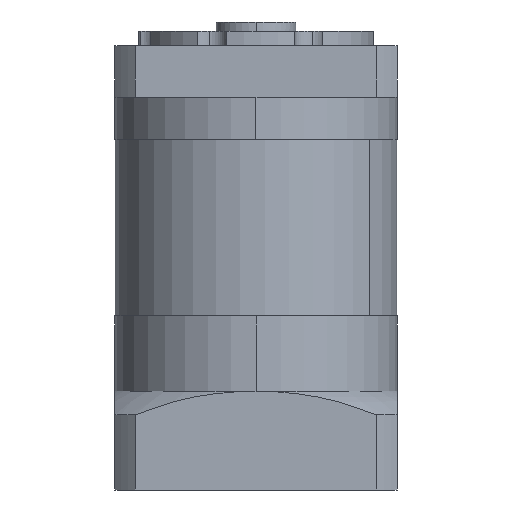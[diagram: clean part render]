
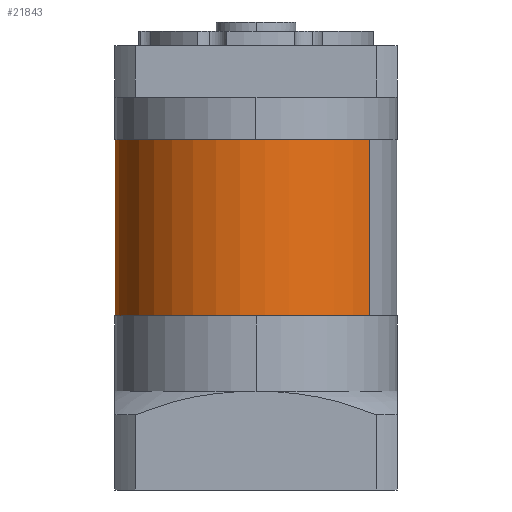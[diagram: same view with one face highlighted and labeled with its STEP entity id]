
A CAD part, left-side view. The second image highlights one B-rep face of the part: STEP entity #21843.
In plain terms, the highlighted cylindrical face has radius 30 mm (diameter 60 mm), a partial arc.
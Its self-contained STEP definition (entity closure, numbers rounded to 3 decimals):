
#599 = CARTESIAN_POINT ( 'NONE',  ( 0., -30., 18.75 ) ) ;
#1205 = DIRECTION ( 'NONE',  ( 0., 0., -1. ) ) ;
#1241 = CARTESIAN_POINT ( 'NONE',  ( 0., 30., 18.75 ) ) ;
#1908 = LINE ( 'NONE', #40307, #9716 ) ;
#2943 = CARTESIAN_POINT ( 'NONE',  ( 0., 30., -18.75 ) ) ;
#3384 = CARTESIAN_POINT ( 'NONE',  ( 0., 30., 18.75 ) ) ;
#3397 = ORIENTED_EDGE ( 'NONE', *, *, #37123, .F. ) ;
#4415 = ORIENTED_EDGE ( 'NONE', *, *, #4863, .T. ) ;
#4487 = CARTESIAN_POINT ( 'NONE',  ( 0., -30., -18.75 ) ) ;
#4863 = EDGE_CURVE ( 'NONE', #21044, #7023, #36977, .T. ) ;
#5177 = DIRECTION ( 'NONE',  ( 0., 0., -1. ) ) ;
#5363 = CIRCLE ( 'NONE', #7870, 30. ) ;
#5520 = ORIENTED_EDGE ( 'NONE', *, *, #36772, .T. ) ;
#5795 = DIRECTION ( 'NONE',  ( 0., 0., 1. ) ) ;
#7023 = VERTEX_POINT ( 'NONE', #2943 ) ;
#7870 = AXIS2_PLACEMENT_3D ( 'NONE', #25542, #5795, #28835 ) ;
#9716 = VECTOR ( 'NONE', #17455, 1000. ) ;
#11255 = VERTEX_POINT ( 'NONE', #4487 ) ;
#12662 = EDGE_CURVE ( 'NONE', #7023, #11255, #5363, .T. ) ;
#12930 = VECTOR ( 'NONE', #1205, 1000. ) ;
#15126 = CARTESIAN_POINT ( 'NONE',  ( 0., 0., 18.75 ) ) ;
#17455 = DIRECTION ( 'NONE',  ( 0., 0., -1. ) ) ;
#18944 = EDGE_LOOP ( 'NONE', ( #3397, #5520, #4415, #35150 ) ) ;
#21044 = VERTEX_POINT ( 'NONE', #3384 ) ;
#21843 = ADVANCED_FACE ( 'NONE', ( #26811 ), #34502, .T. ) ;
#24850 = DIRECTION ( 'NONE',  ( 0., 1., 0. ) ) ;
#24958 = CARTESIAN_POINT ( 'NONE',  ( 0., 0., 18.75 ) ) ;
#25542 = CARTESIAN_POINT ( 'NONE',  ( 0., 0., -18.75 ) ) ;
#26109 = VERTEX_POINT ( 'NONE', #599 ) ;
#26811 = FACE_OUTER_BOUND ( 'NONE', #18944, .T. ) ;
#28237 = DIRECTION ( 'NONE',  ( 0., 1., 0. ) ) ;
#28835 = DIRECTION ( 'NONE',  ( 0., 1., 0. ) ) ;
#34502 = CYLINDRICAL_SURFACE ( 'NONE', #40831, 30. ) ;
#34702 = DIRECTION ( 'NONE',  ( 0., 0., -1. ) ) ;
#34843 = AXIS2_PLACEMENT_3D ( 'NONE', #24958, #5177, #28237 ) ;
#35150 = ORIENTED_EDGE ( 'NONE', *, *, #12662, .T. ) ;
#36426 = CIRCLE ( 'NONE', #34843, 30. ) ;
#36772 = EDGE_CURVE ( 'NONE', #26109, #21044, #36426, .T. ) ;
#36977 = LINE ( 'NONE', #1241, #12930 ) ;
#37123 = EDGE_CURVE ( 'NONE', #26109, #11255, #1908, .T. ) ;
#40307 = CARTESIAN_POINT ( 'NONE',  ( 0., -30., 18.75 ) ) ;
#40831 = AXIS2_PLACEMENT_3D ( 'NONE', #15126, #34702, #24850 ) ;
